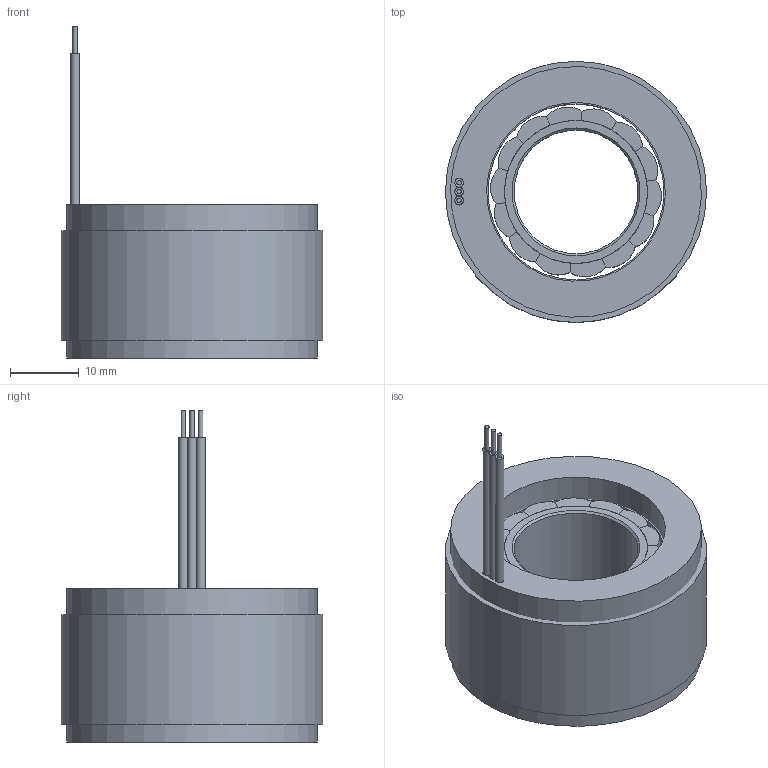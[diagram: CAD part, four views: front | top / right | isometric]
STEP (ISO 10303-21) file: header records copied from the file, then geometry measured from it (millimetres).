
FILE_DESCRIPTION (( 'STEP AP214' ), '1' );
FILE_NAME ('3813萇儂.STEP', '2024-01-17T05:58:37', ( '' ), ( '' ), 'SwSTEP 2.0', 'SolidWorks 2022', '' );
FILE_SCHEMA (( 'AUTOMOTIVE_DESIGN' ));
Length unit declared in the file: millimetre
Products named in the file (1): 3813萇儂
Bounding box: 38 x 38 x 48.3 mm (x, y, z)
Volume: 23636.6 mm3; surface area: 27721.9 mm2
Topology: 33 solids, 33 shells, 434 faces, 1087 edges, 725 vertices
Faces by surface type: plane 256, cylinder 176, cone 2
Full cylindrical faces by diameter (mm): 0.64 x6, 1.28 x3, 18 x1, 20.8 x1, 25.6 x1, 26 x1, 36 x1, 36.5 x1, 38 x1
Entity records: 18076 total; most frequent: DIRECTION 2290, CARTESIAN_POINT 2223, ORIENTED_EDGE 2132, EDGE_CURVE 1066, AXIS2_PLACEMENT_3D 789, VERTEX_POINT 722, LINE 712, VECTOR 712
